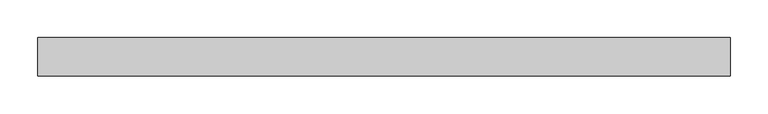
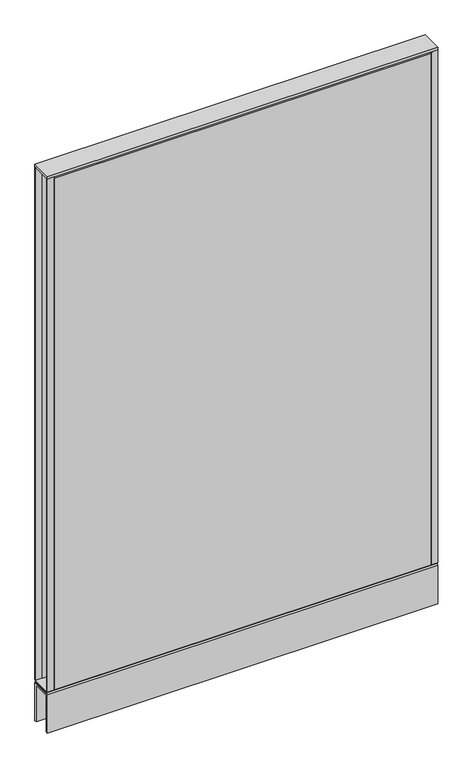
"""IFC4 building model written with IfcOpenShell, lengths in millimetres: furniture geometry, Steelcase - Kick Solutions - Panel - Monolithic - Tackable Acoustical : 54H x 36W."""

from ifc_helpers import new_model, si_unit, frame, origin, place, context, project, spatial, polyline, outline, extrude, source, transform, mapped, element, save


def furniture_d00b93b7(model_context):
    return source(origin(), model_context, "Body", "SweptSolid", [
        extrude(outline(polyline([(0.0, 101.7169049), (-3.1750015, 101.7169049), (-3.1750015, 1371.7169018), (0.0, 1368.6357466), (0.0, 101.7169049)])), frame((15.8749996, 0.0, 0.0), z_axis=(1.0, 0.0, 0.0), x_axis=(0.0, 1.0, 0.0)), (0.0, 0.0, 1.0), 882.6500008),
        extrude(outline(polyline([(-50.8000015, 101.7169049), (-50.8000015, 1368.6357466), (-47.625, 1371.7169018), (-47.625, 101.7169049), (-50.8000015, 101.7169049)])), frame((15.8749996, 0.0, 0.0), z_axis=(1.0, 0.0, 0.0), x_axis=(0.0, 1.0, 0.0)), (0.0, 0.0, 1.0), 882.6500008),
        extrude(outline(polyline([(914.4, -3.1750015), (898.5250004, -3.1750015), (898.5250004, 0.0), (914.4, 0.0), (914.4, -3.1750015)])), frame((0.0, 0.0, 101.7169049), z_axis=(0.0, 0.0, 1.0), x_axis=(1.0, 0.0, 0.0)), (0.0, 0.0, 1.0), 1269.999997),
        extrude(outline(polyline([(15.8749996, -50.8000015), (0.0, -50.8000015), (0.0, -47.625), (15.8749996, -47.625), (15.8749996, -50.8000015)])), frame((0.0, 0.0, 101.7169049), z_axis=(0.0, 0.0, 1.0), x_axis=(1.0, 0.0, 0.0)), (0.0, 0.0, 1.0), 1269.999997),
        extrude(outline(polyline([(-50.7995075, 101.7169049), (-0.000494, 101.7169049), (-3.0583512, 98.5421458), (-47.7416503, 98.5421458), (-50.7995075, 101.7169049)])), frame((0.0, 0.0, 0.0), z_axis=(1.0, 0.0, 0.0), x_axis=(0.0, 1.0, 0.0)), (0.0, 0.0, 1.0), 914.4),
        extrude(outline(polyline([(914.4, 0.0), (914.4, -50.8000015), (0.0, -50.8000015), (0.0, 0.0), (914.4, 0.0)])), frame((0.0, 0.0, 1371.7169018), z_axis=(0.0, 0.0, 1.0), x_axis=(1.0, 0.0, 0.0)), (0.0, 0.0, 1.0), 6.35),
        extrude(outline(polyline([(15.8749996, -3.1750015), (0.0, -3.1750015), (0.0, 0.0), (15.8749996, 0.0), (15.8749996, -3.1750015)])), frame((0.0, 0.0, 101.7169049), z_axis=(0.0, 0.0, 1.0), x_axis=(1.0, 0.0, 0.0)), (0.0, 0.0, 1.0), 1269.999997),
        extrude(outline(polyline([(914.4, -50.8000015), (898.5250004, -50.8000015), (898.5250004, -47.625), (914.4, -47.625), (914.4, -50.8000015)])), frame((0.0, 0.0, 101.7169049), z_axis=(0.0, 0.0, 1.0), x_axis=(1.0, 0.0, 0.0)), (0.0, 0.0, 1.0), 1269.999997),
        extrude(outline(polyline([(-50.8000015, 95.3668927), (-47.6247484, 98.5421458), (-3.1752531, 98.5421458), (0.0, 95.3668927), (-50.8000015, 95.3668927)])), frame((0.0, 0.0, 0.0), z_axis=(1.0, 0.0, 0.0), x_axis=(0.0, 1.0, 0.0)), (0.0, 0.0, 1.0), 914.4),
        extrude(outline(polyline([(0.0, 0.0), (-5.08, 0.0), (-5.08, 90.2869018), (-45.7200015, 90.2869018), (-45.7200015, 0.0), (-50.8000015, 0.0), (-50.8000015, 95.3669018), (0.0, 95.3669018), (0.0, 0.0)])), frame((0.0, 0.0, 0.0), z_axis=(1.0, 0.0, 0.0), x_axis=(0.0, 1.0, 0.0)), (0.0, 0.0, 1.0), 914.4),
    ])


if __name__ == "__main__":
    model = new_model("IFC4")
    model_context = context("Model", 3, world=origin())
    ifc_project = project(units=[si_unit("LENGTHUNIT", "METRE", prefix="MILLI")], contexts=[model_context])
    site = spatial("IfcSite", under=ifc_project)
    building = spatial("IfcBuilding", under=site)
    placement = place(None, origin())
    furniture_shape = furniture_d00b93b7(model_context)
    element("IfcFurniture", 1, ObjectType="Steelcase - Kick Solutions - Panel - Monolithic - Tackable Acoustical : 54H x 36W", at=placement, inside=building, context=model_context, shape_type="MappedRepresentation", body=[
        mapped(furniture_shape, transform((0.0, 0.0, 0.0), x_axis=(1.0, 0.0, 0.0), y_axis=(0.0, 1.0, 0.0), z_axis=(0.0, 0.0, 1.0))),
    ])
    save(model, "model.ifc")
